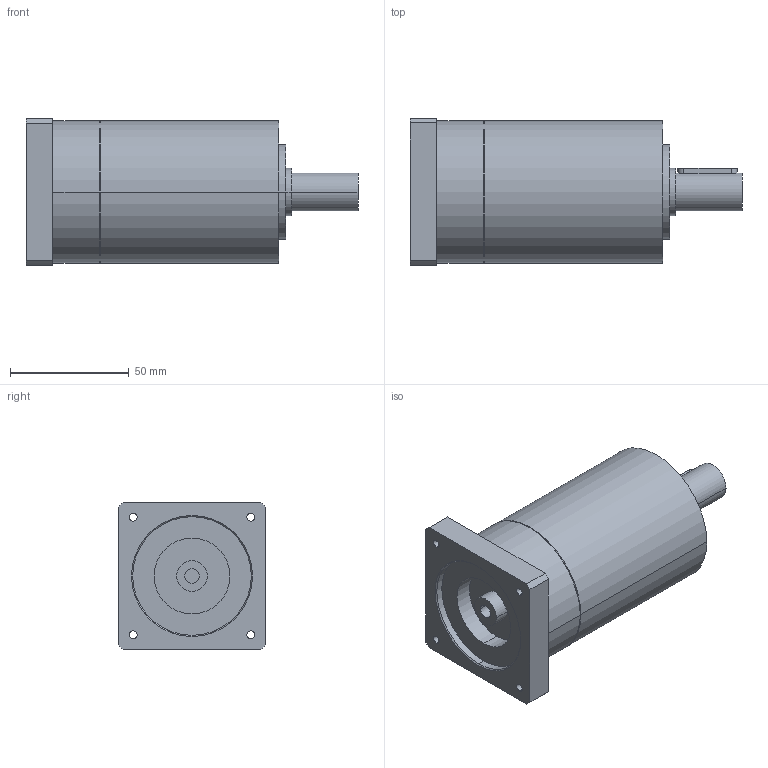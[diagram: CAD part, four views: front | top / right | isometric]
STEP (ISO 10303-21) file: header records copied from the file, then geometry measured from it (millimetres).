
FILE_DESCRIPTION(('CoCreate Modeling STEP Export'),'2;1');
FILE_NAME('GPR75_ig-9-12-16-20-24-30-36_16_B14_6_P31.stp','2014-08-25T16:04:59',(''),(''),'CoCreate Modeling STEP processor for AP214 (Solid Model)','CoCreate Modeling 16.00C 25-Feb-2009 (C) Parametric Technology GmbH','');
FILE_SCHEMA(('AUTOMOTIVE_DESIGN { 1 0 10303 214 1 1 1 1 }'));
Length unit declared in the file: millimetre
Products named in the file (2): GPR75_ig-9-12-16-20-24-30-36_16_B14_6_P31
Assembly tree (1 placements, depth 2):
  GPR75_ig-9-12-16-20-24-30-36_16_B14_6_P31
    GPR75_ig-9-12-16-20-24-30-36_16_B14_6_P31
Bounding box: 139.9 x 62 x 62 mm (x, y, z)
Volume: 308403.7 mm3; surface area: 33643.7 mm2
Topology: 1 solids, 1 shells, 72 faces, 195 edges, 137 vertices
Faces by surface type: cylinder 42, plane 22, cone 8
Entity records: 1994 total; most frequent: ORIENTED_EDGE 386, CARTESIAN_POINT 369, DIRECTION 268, EDGE_CURVE 193, VERTEX_POINT 137, AXIS2_PLACEMENT_3D 100, EDGE_LOOP 94, FACE_OUTER_BOUND 72
